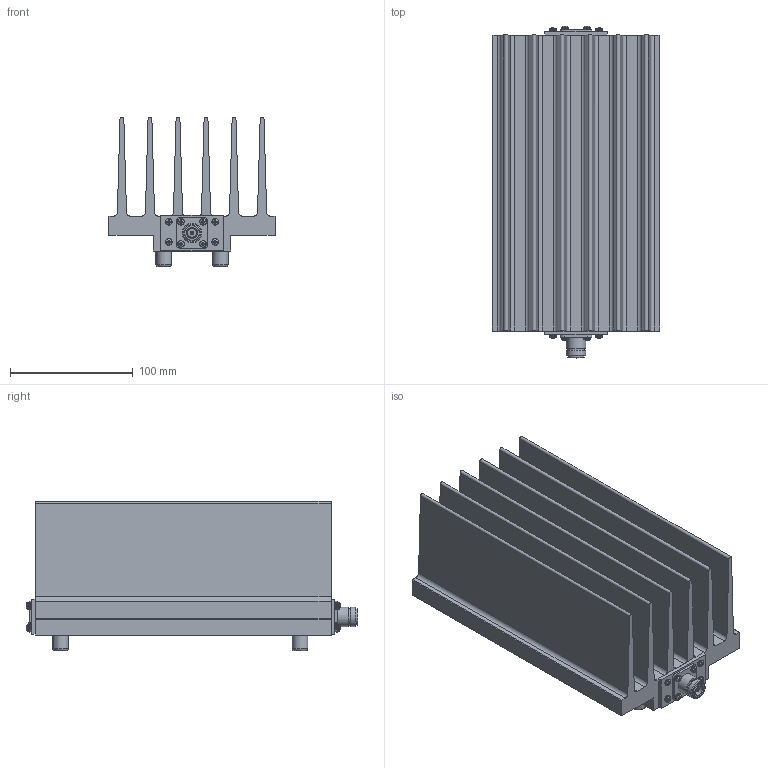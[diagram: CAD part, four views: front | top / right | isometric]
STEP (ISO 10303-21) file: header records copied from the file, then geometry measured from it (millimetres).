
FILE_DESCRIPTION(/* description */ ('Unknown'),/* implementation_level */ '2;1');
FILE_NAME(/* name */ '500-WT-FN Rev D STEP',/* time_stamp */ '2020-08-25T09:42:51-04:00',/* author */ ('Unknown'),/* organization */ ('Unknown'),/* preprocessor_version */ 'ST-DEVELOPER v16.7',/* originating_system */ 'Solid Edge',/* authorisation */ 'Unknown');
FILE_SCHEMA (('AUTOMOTIVE_DESIGN {1 0 10303 214 3 1 1}'));
Length unit declared in the file: millimetre
Products named in the file (1): 500-WT-FN
Bounding box: 136.91 x 270.7 x 121.67 mm (x, y, z)
Volume: 1364176.2 mm3; surface area: 319429.6 mm2
Topology: 1 solids, 1 shells, 850 faces, 2201 edges, 1439 vertices
Faces by surface type: plane 570, cylinder 152, cone 74, torus 38, sphere 16
Full cylindrical faces by diameter (mm): 2.845 x16, 3.175 x16, 3.967 x4, 4.648 x10, 4.75 x10, 5.563 x16, 6.993 x1, 8.128 x1, 12.7 x4, 13.462 x2, 15.875 x2
Entity records: 31003 total; most frequent: CARTESIAN_POINT 4675, DIRECTION 4338, ORIENTED_EDGE 4016, EDGE_CURVE 2008, AXIS2_PLACEMENT_3D 1627, VERTEX_POINT 1372, EDGE_LOOP 1094, FACE_BOUND 1094
